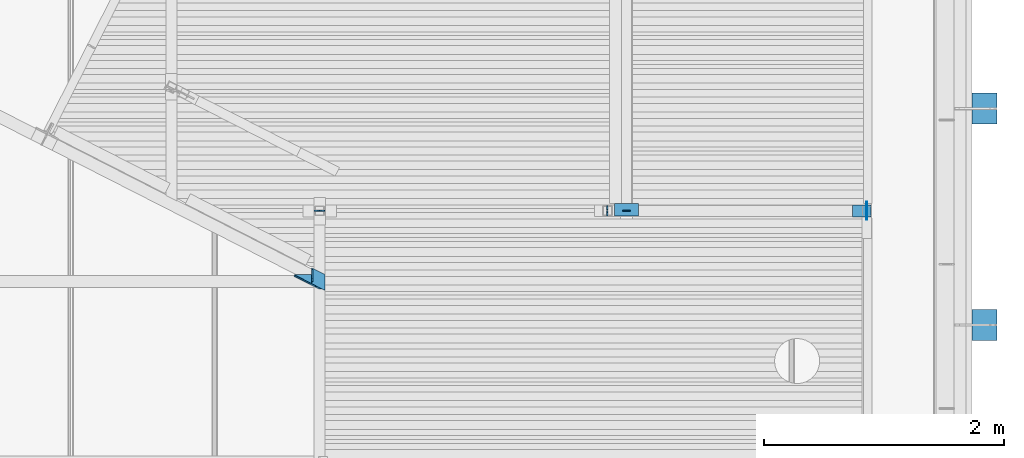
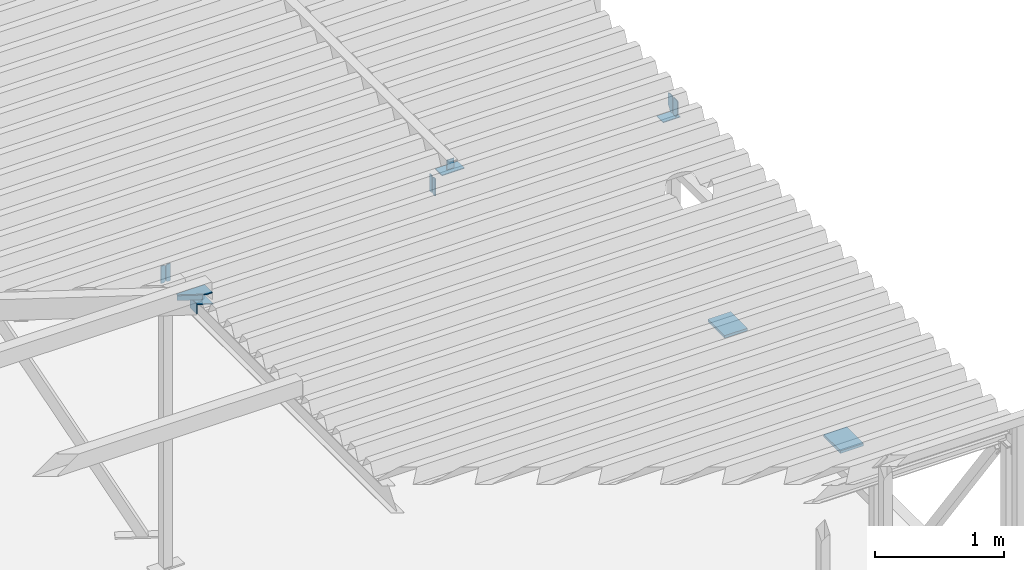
# One storey, part 21 of 30: 15 beams.
"""IFC2X3 building model written with IfcOpenShell, lengths in millimetres."""

from ifc_helpers import new_model, entity, si_unit, converted_unit, derived_unit, direction, frame, origin_with_axes, place, context, subcontext, project, spatial, faceted_brep, material, type_object, element, save


model = new_model("IFC2X3")

# Units and contexts
model_context = context("Model", 3, precision=0.01, world=frame((0.0, 4.29681676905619e-09, 0.0)), true_north=direction((4.01073788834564e-13, 1.0)))
plan_context = context("Plan", 3, precision=0.01, world=frame((0.0, 4.29681676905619e-09, 0.0)), true_north=direction((4.01073788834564e-13, 1.0)))
body_context = subcontext(model_context, "Body", "Model", "MODEL_VIEW")
ifc_project = project(units=[converted_unit("PLANEANGLEUNIT", "DEGREE", entity("IfcPositiveLengthMeasure", 0.0174532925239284), si_unit("PLANEANGLEUNIT", "RADIAN"), dimensions=[0, 0, 0, 0, 0, 0, 0]), si_unit("AREAUNIT", "SQUARE_METRE"), si_unit("LENGTHUNIT", "METRE", prefix="MILLI"), si_unit("MASSUNIT", "GRAM", prefix="KILO"), si_unit("POWERUNIT", "WATT"), si_unit("PRESSUREUNIT", "PASCAL"), si_unit("FORCEUNIT", "NEWTON", prefix="KILO"), si_unit("ELECTRICVOLTAGEUNIT", "VOLT"), si_unit("ELECTRICCURRENTUNIT", "AMPERE"), si_unit("THERMODYNAMICTEMPERATUREUNIT", "DEGREE_CELSIUS"), si_unit("TIMEUNIT", "SECOND"), si_unit("VOLUMEUNIT", "CUBIC_METRE"), derived_unit("LINEARVELOCITYUNIT", [(si_unit("LENGTHUNIT", "METRE"), 1), (si_unit("TIMEUNIT", "SECOND"), -1)]), derived_unit("VOLUMETRICFLOWRATEUNIT", [(si_unit("VOLUMEUNIT", "CUBIC_METRE"), 1), (si_unit("TIMEUNIT", "SECOND"), -1)]), derived_unit("THERMALTRANSMITTANCEUNIT", [(si_unit("POWERUNIT", "WATT"), 1), (si_unit("THERMODYNAMICTEMPERATUREUNIT", "KELVIN"), -1), (si_unit("AREAUNIT", "SQUARE_METRE"), -1)]), derived_unit("SOUNDPRESSUREUNIT", [(si_unit("PRESSUREUNIT", "PASCAL"), 1)])], contexts=[model_context, plan_context])

# Site, building, storey
site_placement = place(None, frame((0.0, -4.29681676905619e-09, 0.0), z_axis=(0.0, 0.0, 1.0), x_axis=(1.0, 0.0, 0.0)))
site = spatial("IfcSite", under=ifc_project, at=site_placement, Name="Gardermoen", CompositionType="ELEMENT")
building_placement = place(site_placement, frame((0.0, 4.29681676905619e-09, 0.0), z_axis=(0.0, 0.0, 1.0), x_axis=(1.0, 0.0, 0.0)))
building = spatial("IfcBuilding", under=site, at=building_placement, Name="TI", CompositionType="ELEMENT")
storey_placement = place(building_placement, origin_with_axes())
storey = spatial("IfcBuildingStorey", under=building, at=storey_placement, Name="F", CompositionType="ELEMENT", Elevation=0.0)

# Beams
ifc_material_1 = material(Name="STEEL/S355")
beam_type_1 = type_object("IfcBeamType", Name="PL8*100", PredefinedType="NOTDEFINED")
beam_1_placement = place(storey_placement, frame((611324.642290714, 694450.068791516, 213515.999698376), z_axis=(5.80000057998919e-08, 0.999999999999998, 0.0), x_axis=(-0.999999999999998, 5.80000057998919e-08, 0.0)))
element("IfcBeam", 1, at=beam_1_placement, inside=storey, type_object=beam_type_1, material=ifc_material_1, Name="STÅLBJELKE", ObjectType="PL8*100", context=body_context, shape_type="Brep", body=[
    faceted_brep([(-6.98491930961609e-10, 4.0, -49.9999999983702), (5.82076609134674e-10, 4.0, 49.9999999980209), (155.000000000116, 3.99999999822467, 49.9999999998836), (155.000000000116, 3.99999999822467, -50.0000000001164), (4.07453626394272e-10, -4.0, 49.9999999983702), (155.000000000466, -4.00000000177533, 49.9999999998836), (-9.89530235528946e-10, -4.0, -49.9999999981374), (155.000000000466, -4.00000000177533, -50.0000000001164)], [[[0, 1, 2, 3]], [[1, 4, 5, 2]], [[4, 6, 7, 5]], [[6, 0, 3, 7]], [[5, 7, 3, 2]], [[6, 4, 1, 0]]]),
])
beam_type_2 = type_object("IfcBeamType", Name="PL8*200", PredefinedType="NOTDEFINED")
beam_2_placement = place(storey_placement, frame((609289.642571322, 694510.684039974, 213703.997128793), z_axis=(-1.0, 0.0, 0.0), x_axis=(0.0, -1.0, 0.0)))
element("IfcBeam", 2, at=beam_2_placement, inside=storey, type_object=beam_type_2, material=ifc_material_1, Name="STÅLBJELKE", ObjectType="PL8*200", context=body_context, shape_type="Brep", body=[
    faceted_brep([(-4.07453626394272e-09, 3.99999999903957, -100.000000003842), (4.30736690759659e-09, 4.00000000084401, 100.000000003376), (106.0, 4.0, 100.0), (106.0, 4.0, -100.0), (3.95812094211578e-09, -3.99999999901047, 100.000000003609), (106.0, -4.0, 100.0), (-4.30736690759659e-09, -4.00000000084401, -100.000000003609), (106.0, -4.0, -100.0)], [[[0, 1, 2, 3]], [[1, 4, 5, 2]], [[4, 6, 7, 5]], [[6, 0, 3, 7]], [[5, 7, 3, 2]], [[6, 4, 1, 0]]]),
])
beam_type_3 = type_object("IfcBeamType", Name="PL10*120", PredefinedType="NOTDEFINED")
beam_3_placement = place(storey_placement, frame((606527.424852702, 693903.702939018, 213804.999645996), z_axis=(0.453991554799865, 0.891005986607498, 0.0), x_axis=(0.891005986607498, -0.453991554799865, 0.0)))
element("IfcBeam", 3, at=beam_3_placement, inside=storey, type_object=beam_type_3, material=ifc_material_1, Name="STÅLBJELKE", ObjectType="PL10*120", context=body_context, shape_type="Brep", body=[
    faceted_brep([(0.0, -5.0, 0.0), (-7.3972887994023, -5.0, 14.522613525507), (-7.3972887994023, 5.0, 14.522613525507), (0.0, 5.0, 0.0), (219.288604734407, -5.0, 130.019882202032), (219.288604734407, 5.0, 130.019882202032), (273.766448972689, -5.0, 23.100902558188), (273.766448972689, 5.0, 23.100902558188), (228.430984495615, -5.0, 1.32713466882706e-08), (228.430984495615, 5.0, 1.32713466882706e-08)], [[[0, 1, 2, 3]], [[1, 4, 5, 2]], [[4, 6, 7, 5]], [[6, 8, 9, 7]], [[8, 0, 3, 9]], [[5, 7, 9, 3, 2]], [[8, 6, 4, 1, 0]]]),
])
beam_type_4 = type_object("IfcBeamType", Name="PL260*25", PredefinedType="NOTDEFINED")
for number, where, z_axis, x_axis in (
    (4, (612165.000134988, 695299.971008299, 210667.500000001), (0.0, 1.0, 0.0), (0.999999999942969, 0.0, 1.06800001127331e-05)),
    (5, (612165.000134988, 693500.044250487, 210667.500000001), (0.0, 1.0, 0.0), (0.999999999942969, 0.0, 1.06800001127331e-05)),
):
    element("IfcBeam", number, at=place(storey_placement, frame(where, z_axis=z_axis, x_axis=x_axis)), inside=storey, type_object=beam_type_4, material=ifc_material_1, Name="STÅLBJELKE", ObjectType="PL260*25", context=body_context, shape_type="Brep", body=[
        faceted_brep([(-5.82076609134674e-10, 12.5, -130.0), (-5.82076609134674e-10, 12.5, 130.0), (206.026725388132, 12.5000000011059, 130.0), (206.026725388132, 12.5000000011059, -130.0), (3.49245965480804e-10, -12.4999999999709, 130.0), (206.026725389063, -12.499999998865, 130.0), (3.49245965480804e-10, -12.4999999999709, -130.0), (206.026725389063, -12.499999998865, -130.0)], [[[0, 1, 2, 3]], [[1, 4, 5, 2]], [[4, 6, 7, 5]], [[6, 0, 3, 7]], [[5, 7, 3, 2]], [[6, 4, 1, 0]]]),
    ])
beam_type_5 = type_object("IfcBeamType", Name="PL8*66", PredefinedType="NOTDEFINED")
beam_4_placement = place(storey_placement, frame((609289.642571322, 694450.114039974, 213708.997128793), z_axis=(-0.999999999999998, 5.80000057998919e-08, 0.0), x_axis=(0.0, 0.0, 1.0)))
element("IfcBeam", 6, at=beam_4_placement, inside=storey, type_object=beam_type_5, material=ifc_material_1, Name="STÅLBJELKE", ObjectType="PL8*66", context=body_context, shape_type="Brep", body=[
    faceted_brep([(0.0, 4.0, -33.0), (0.0, 4.0, 33.0), (90.0026804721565, 4.0, 33.0), (90.0026804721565, 4.0, -33.0), (0.0, -4.0, 33.0), (90.0026804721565, -4.0, 33.0), (0.0, -4.0, -33.0), (90.0026804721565, -4.0, -33.0)], [[[0, 1, 2, 3]], [[1, 4, 5, 2]], [[4, 6, 7, 5]], [[6, 0, 3, 7]], [[5, 7, 3, 2]], [[6, 4, 1, 0]]]),
])
beam_type_6 = type_object("IfcBeamType", Name="PL8*72", PredefinedType="NOTDEFINED")
for number, where, z_axis, x_axis in (
    (7, (611289.642297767, 694492.704047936, 213527.996723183), (4.25517216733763e-21, 6.98130002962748e-05, 0.999999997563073), (-1.69000122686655e-07, -0.999999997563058, 6.98130002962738e-05)),
    (8, (611289.642312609, 694407.426245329, 213527.999699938), (0.0, 0.0, 1.0), (0.0, 1.0, 0.0)),
):
    element("IfcBeam", number, at=place(storey_placement, frame(where, z_axis=z_axis, x_axis=x_axis)), inside=storey, type_object=beam_type_6, material=ifc_material_1, Name="STÅLBJELKE", ObjectType="PL8*72", context=body_context, shape_type="Brep", body=[
        faceted_brep([(-5.82076609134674e-11, -3.99999999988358, 0.0), (-32.3599967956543, -4.0, 47.0), (-32.3599967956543, 4.0, 47.0), (-5.82076609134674e-11, 4.00000000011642, -5.82076609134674e-11), (-32.3599967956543, -4.0, 157.000198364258), (-32.3599967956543, 4.0, 157.000198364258), (2.3283064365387e-10, -3.99999999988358, 164.0), (-2.3283064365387e-10, 4.00000000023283, 164.0), (30.0000000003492, -3.99999999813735, 164.0), (29.9999999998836, 4.00000000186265, 164.0), (40.0000000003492, -3.99999999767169, 154.0), (40.0, 4.00000000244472, 154.0), (40.0, -4.00000000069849, 10.0), (40.0000000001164, 3.99999999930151, 10.0), (30.0000000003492, -3.99999999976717, 0.0), (30.0000000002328, 4.00000000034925, 1.16415321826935e-10)], [[[0, 1, 2, 3]], [[1, 4, 5, 2]], [[4, 6, 7, 5]], [[6, 8, 9, 7]], [[8, 10, 11, 9]], [[10, 12, 13, 11]], [[12, 14, 15, 13]], [[14, 0, 3, 15]], [[5, 7, 9, 11, 13, 15, 3, 2]], [[14, 12, 10, 8, 6, 4, 1, 0]]]),
    ])
ifc_material_2 = material(Name="STEEL/S355J0")
beam_type_7 = type_object("IfcBeamType", Name="PL8*40", PredefinedType="NOTDEFINED")
beam_5_placement = place(storey_placement, frame((606778.99043377, 694450.069674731, 213527.999847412), z_axis=(-6.80007797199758e-08, 8.03089228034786e-14, 0.999999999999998), x_axis=(-0.9999999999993, 1.18100002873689e-06, -6.80007797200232e-08)))
element("IfcBeam", 9, at=beam_5_placement, inside=storey, type_object=beam_type_7, material=ifc_material_2, Name="STÅLBJELKE", ObjectType="PL8*40", context=body_context, shape_type="Brep", body=[
    faceted_brep([(-5.82076609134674e-11, -3.99999999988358, 0.0), (2.3283064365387e-10, -3.99999999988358, 164.0), (-2.3283064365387e-10, 4.00000000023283, 164.0), (-5.82076609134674e-11, 4.00000000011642, -5.82076609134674e-11), (30.0000000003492, -3.99999999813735, 164.0), (29.9999999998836, 4.00000000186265, 164.0), (40.0000000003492, -3.99999999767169, 154.0), (40.0, 4.00000000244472, 154.0), (40.0, -4.00000000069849, 10.0), (40.0000000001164, 3.99999999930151, 10.0), (30.0000000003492, -3.99999999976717, 0.0), (30.0000000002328, 4.00000000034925, 1.16415321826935e-10)], [[[0, 1, 2, 3]], [[1, 4, 5, 2]], [[4, 6, 7, 5]], [[6, 8, 9, 7]], [[8, 10, 11, 9]], [[10, 0, 3, 11]], [[5, 7, 9, 11, 3, 2]], [[10, 8, 6, 4, 1, 0]]]),
])
beam_6_placement = place(storey_placement, frame((606733.690433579, 694450.069759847, 213527.999847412), z_axis=(-6.80007797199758e-08, 8.03089228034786e-14, 0.999999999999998), x_axis=(-0.9999999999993, 1.18100002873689e-06, -6.80007797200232e-08)))
element("IfcBeam", 10, at=beam_6_placement, inside=storey, type_object=beam_type_7, material=ifc_material_2, Name="STÅLBJELKE", ObjectType="PL8*40", context=body_context, shape_type="Brep", body=[
    faceted_brep([(7.10249878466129e-07, -4.00000000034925, 10.0000000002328), (1.16415321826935e-10, -4.0, 154.0), (-1.16415321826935e-10, 4.0, 154.0), (7.10017047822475e-07, 3.99999999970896, 10.000000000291), (10.0000000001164, -3.99999999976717, 164.0), (9.99999999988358, 4.00000000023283, 164.0), (40.0000000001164, -3.99999999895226, 164.0), (39.9999999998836, 4.00000000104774, 164.0), (40.0000000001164, -3.99999999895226, 2.91038304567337e-11), (39.9999999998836, 4.00000000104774, 2.91038304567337e-11), (10.0000000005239, -4.0, 3.78349795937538e-10), (10.0000000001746, 3.99999999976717, 4.65661287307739e-10)], [[[0, 1, 2, 3]], [[1, 4, 5, 2]], [[4, 6, 7, 5]], [[6, 8, 9, 7]], [[8, 10, 11, 9]], [[10, 0, 3, 11]], [[5, 7, 9, 11, 3, 2]], [[10, 8, 6, 4, 1, 0]]]),
])
beam_7_placement = place(storey_placement, frame((609131.33996138, 694492.725129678, 213527.99978627), z_axis=(0.0, 0.0, 1.0), x_axis=(0.0, -1.0, 0.0)))
element("IfcBeam", 11, at=beam_7_placement, inside=storey, type_object=beam_type_7, material=ifc_material_2, Name="STÅLBJELKE", ObjectType="PL8*40", context=body_context, shape_type="Brep", body=[
    faceted_brep([(-5.82076609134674e-11, -3.99999999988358, 0.0), (2.3283064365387e-10, -3.99999999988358, 164.0), (-2.3283064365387e-10, 4.00000000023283, 164.0), (-5.82076609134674e-11, 4.00000000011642, -5.82076609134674e-11), (30.0000000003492, -3.99999999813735, 164.0), (29.9999999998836, 4.00000000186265, 164.0), (40.0000000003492, -3.99999999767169, 154.0), (40.0, 4.00000000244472, 154.0), (40.0, -4.00000000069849, 10.0), (40.0000000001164, 3.99999999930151, 10.0), (30.0000000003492, -3.99999999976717, 0.0), (30.0000000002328, 4.00000000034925, 1.16415321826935e-10)], [[[0, 1, 2, 3]], [[1, 4, 5, 2]], [[4, 6, 7, 5]], [[6, 8, 9, 7]], [[8, 10, 11, 9]], [[10, 0, 3, 11]], [[5, 7, 9, 11, 3, 2]], [[10, 8, 6, 4, 1, 0]]]),
])
beam_8_placement = place(storey_placement, frame((609131.3399848, 694447.425129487, 213527.99978627), z_axis=(0.0, 0.0, 1.0), x_axis=(0.0, -1.0, 0.0)))
element("IfcBeam", 12, at=beam_8_placement, inside=storey, type_object=beam_type_7, material=ifc_material_2, Name="STÅLBJELKE", ObjectType="PL8*40", context=body_context, shape_type="Brep", body=[
    faceted_brep([(7.10249878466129e-07, -4.00000000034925, 10.0000000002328), (1.16415321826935e-10, -4.0, 154.0), (-1.16415321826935e-10, 4.0, 154.0), (7.10017047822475e-07, 3.99999999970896, 10.000000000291), (10.0000000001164, -3.99999999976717, 164.0), (9.99999999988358, 4.00000000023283, 164.0), (40.0000000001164, -3.99999999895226, 164.0), (39.9999999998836, 4.00000000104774, 164.0), (40.0000000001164, -3.99999999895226, 2.91038304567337e-11), (39.9999999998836, 4.00000000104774, 2.91038304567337e-11), (10.0000000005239, -4.0, 3.78349795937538e-10), (10.0000000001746, 3.99999999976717, 4.65661287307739e-10)], [[[0, 1, 2, 3]], [[1, 4, 5, 2]], [[4, 6, 7, 5]], [[6, 8, 9, 7]], [[8, 10, 11, 9]], [[10, 0, 3, 11]], [[5, 7, 9, 11, 3, 2]], [[10, 8, 6, 4, 1, 0]]]),
])
beam_type_8 = type_object("IfcBeamType", Name="PL10*45", PredefinedType="NOTDEFINED")
beam_9_placement = place(storey_placement, frame((606704.686553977, 693818.996399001, 213754.999620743), z_axis=(2.67299855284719e-09, -1.36209943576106e-09, 1.0), x_axis=(-0.890987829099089, 0.454027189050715, 3.00003935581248e-09)))
element("IfcBeam", 13, at=beam_9_placement, inside=storey, type_object=beam_type_8, material=ifc_material_1, Name="STÅLBJELKE", ObjectType="PL10*45", context=body_context, shape_type="Brep", body=[
    faceted_brep([(0.0, -5.0, 0.0), (3.50293703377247e-07, -5.00000000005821, 44.9996490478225), (3.50526534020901e-07, 4.99999999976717, 44.9996490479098), (0.0, 5.0, 0.0), (200.251129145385, -5.0000000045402, 44.9975547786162), (200.251129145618, 4.99999999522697, 44.997554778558), (200.251129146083, -5.00000000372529, 1.28056854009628e-08), (200.251129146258, 4.99999999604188, 1.27474777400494e-08)], [[[0, 1, 2, 3]], [[1, 4, 5, 2]], [[4, 6, 7, 5]], [[6, 0, 3, 7]], [[5, 7, 3, 2]], [[6, 4, 1, 0]]]),
])
beam_type_9 = type_object("IfcBeamType", Name="PL10*95", PredefinedType="NOTDEFINED")
beam_10_placement = place(storey_placement, frame((606675.84057271, 693858.071872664, 213604.999912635), z_axis=(0.0, 0.0, 1.0), x_axis=(0.0, 1.0, 0.0)))
element("IfcBeam", 14, at=beam_10_placement, inside=storey, type_object=beam_type_9, material=ifc_material_1, Name="STÅLBJELKE", ObjectType="PL10*95", context=body_context, shape_type="Brep", body=[
    faceted_brep([(0.0, -5.0, 0.0), (-2.31200829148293e-07, -5.0, 94.9992370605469), (-2.31200829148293e-07, 5.0, 94.9992370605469), (0.0, 5.0, 0.0), (102.232589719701, -5.0, 94.9993057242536), (102.232589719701, 5.0, 94.9993057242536), (102.23258972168, -5.0, -6.40284270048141e-10), (102.23258972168, 5.0, -6.40284270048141e-10)], [[[0, 1, 2, 3]], [[1, 4, 5, 2]], [[4, 6, 7, 5]], [[6, 0, 3, 7]], [[5, 7, 3, 2]], [[6, 4, 1, 0]]]),
])
beam_type_10 = type_object("IfcBeamType", Name="PL10*111", PredefinedType="NOTDEFINED")
beam_11_placement = place(storey_placement, frame((606670.83922511, 693843.072065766, 213704.999645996), z_axis=(0.453986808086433, 0.891008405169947, 0.0), x_axis=(0.891008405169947, -0.453986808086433, 0.0)))
element("IfcBeam", 15, at=beam_11_placement, inside=storey, type_object=beam_type_10, material=ifc_material_1, Name="STÅLBJELKE", ObjectType="PL10*111", context=body_context, shape_type="Brep", body=[
    faceted_brep([(0.0, -5.0, 0.0), (-60.0316123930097, -5.0, 117.820350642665), (-60.0316123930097, 5.0, 117.820350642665), (0.0, 5.0, 0.0), (64.5476150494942, -5.0, 117.820350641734), (64.5476150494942, 5.0, 117.820350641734), (124.579467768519, -5.0, 4.77302819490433e-09), (124.579467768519, 5.0, 4.77302819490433e-09)], [[[0, 1, 2, 3]], [[1, 4, 5, 2]], [[4, 6, 7, 5]], [[6, 0, 3, 7]], [[5, 7, 3, 2]], [[6, 4, 1, 0]]]),
])

save(model, "model.ifc")
